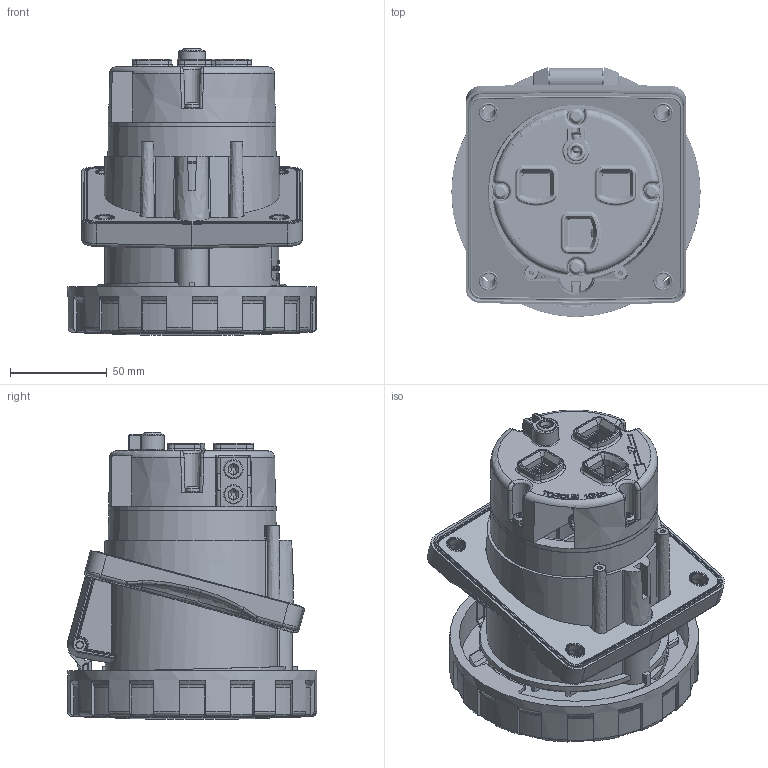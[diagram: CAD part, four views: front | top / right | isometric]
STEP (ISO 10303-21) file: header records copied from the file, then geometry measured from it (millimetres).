
FILE_DESCRIPTION(/* description */ (''),/* implementation_level */ '2;1');
FILE_NAME(/* name */ '4001331.stp',/* time_stamp */ '2019-10-16T08:10:29+02:00',/* author */ (''),/* organization */ (''),/* preprocessor_version */ 'ST-DEVELOPER v16.7',/* originating_system */ 'SIEMENS PLM Software NX 1884',/* authorisation */ '');
FILE_SCHEMA (('AUTOMOTIVE_DESIGN { 1 0 10303 214 3 1 1 1 }'));
Length unit declared in the file: millimetre
Products named in the file (1): BSOM281C0A08gg1r
Bounding box: 128.5 x 128.73 x 148.08 mm (x, y, z)
Volume: 443747.1 mm3; surface area: 337070.8 mm2
Topology: 30 solids, 30 shells, 4470 faces, 11764 edges, 7448 vertices
Faces by surface type: plane 1851, cylinder 906, bspline 650, torus 364, extrusion 316, cone 312, sphere 41, revolution 30
Full cylindrical faces by diameter (mm): 1 x3, 1.5 x4, 2.4 x2, 3.4 x12, 3.5 x2, 4 x5, 4.1 x2, 4.3 x4, 4.5 x2, 5.5 x3, 5.6 x3, 6.1 x1, 7 x1, 7.7 x4, 8 x2, 8.5 x9, 10 x6, 12.1 x1, 13 x2, 15 x1, 70 x1, 71 x1, 82.5 x1, 113 x1, 114 x1, 117.8 x1, 118.5 x1, 128.5 x1
Entity records: 175938 total; most frequent: CARTESIAN_POINT 72475, ORIENTED_EDGE 22612, DIRECTION 19162, EDGE_CURVE 11306, VERTEX_POINT 7380, AXIS2_PLACEMENT_3D 6846, VECTOR 5440, LINE 5124
